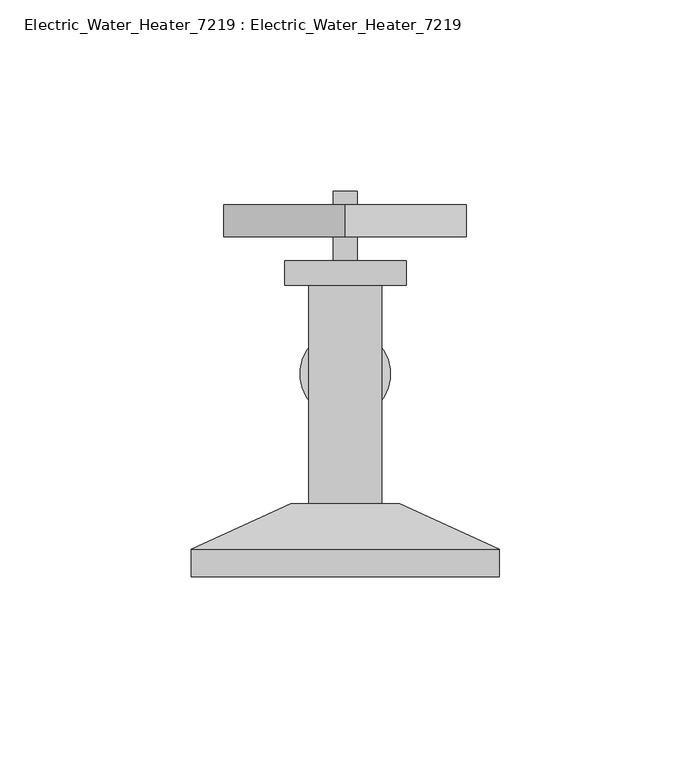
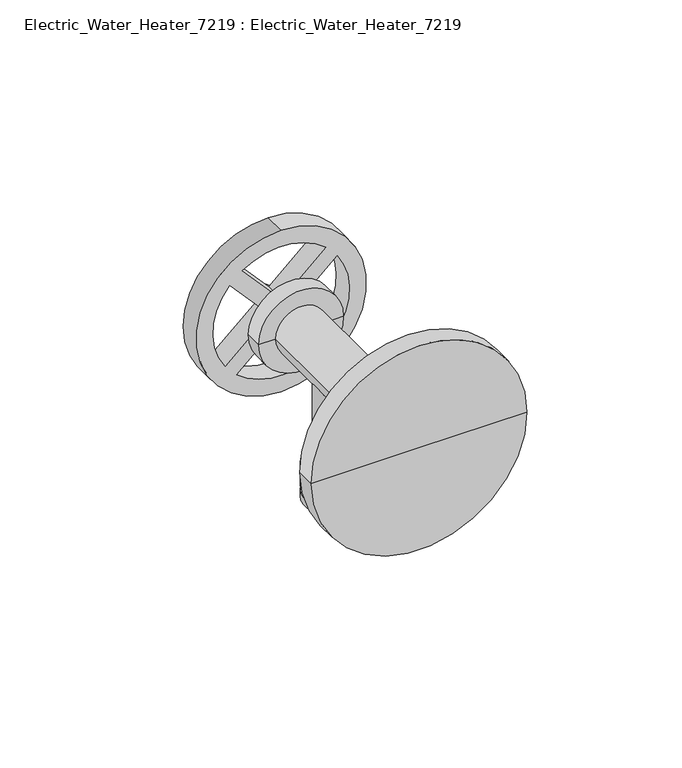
"""IFC4 building model written with IfcOpenShell, lengths in millimetres: flow terminal geometry, Electric_Water_Heater_7219 : Electric_Water_Heater_7219."""

from ifc_helpers import new_model, si_unit, point, frame, frame_2d, origin, place, context, project, spatial, polyline, circle_curve, trimmed, segment, composite_curve, outline, extrude, source, transform, mapped, element, save
from ifc_brep_helpers import plane_surface, cylinder_surface, revolved_surface, advanced_brep


def electric_water_heater_7219_electric_water_heater_7219_a7f30f03(model_context):
    return source(origin(), model_context, "Body", "SolidModel", [
        advanced_brep(
        [(-0.4418278, 129.2029614, 76.4618072), (-0.4418278, 137.1404614, 76.4618072), (-0.4418278, 121.2654614, 76.4618072), (-0.4418278, 117.3734471, 25.4), (-0.4418278, 141.0324757, 25.4), (-0.4418278, 129.2029614, 25.4), (-0.4418278, 117.3734471, 27.9220932), (-0.4418278, 141.0324757, 27.9220932), (-0.4418278, 119.5266224, 28.3017561), (-0.4418278, 138.8793003, 28.3017561), (-0.4418278, 119.5266224, 29.5318914), (-0.4418278, 138.8793003, 29.5318914), (-0.4418278, 117.3734471, 29.9115543), (-0.4418278, 141.0324757, 29.9115543), (-0.4418278, 117.3734471, 31.4414047), (-0.4418278, 141.0324757, 31.4414047), (-0.4418278, 119.5266224, 31.8210676), (-0.4418278, 138.8793003, 31.8210676), (-0.4418278, 119.5266224, 33.0512029), (-0.4418278, 138.8793003, 33.0512029), (-0.4418278, 117.3734471, 33.4308658), (-0.4418278, 141.0324757, 33.4308658), (-0.4418278, 117.3734471, 34.9607162), (-0.4418278, 141.0324757, 34.9607162), (-0.4418278, 119.5266224, 35.3403791), (-0.4418278, 138.8793003, 35.3403791), (-0.4418278, 119.5266224, 36.5705144), (-0.4418278, 138.8793003, 36.5705144), (-0.4418278, 117.3734471, 36.9501773), (-0.4418278, 141.0324757, 36.9501773), (-0.4418278, 117.3734471, 38.4800277), (-0.4418278, 141.0324757, 38.4800277), (-0.4418278, 121.2654614, 38.4800277), (-0.4418278, 137.1404614, 38.4800277)],
        [
            (0, 1),
            (1, 2, circle_curve(frame((-0.4418278, 129.2029614, 76.4618072), z_axis=(0.0, 0.0, 1.0), x_axis=(0.0, 1.0, 0.0)), 7.9375)),
            (2, 0),
            (2, 1, circle_curve(frame((-0.4418278, 129.2029614, 76.4618072), z_axis=(0.0, 0.0, 1.0), x_axis=(0.0, 1.0, 0.0)), 7.9375)),
            (3, 4, circle_curve(frame((-0.4418278, 129.2029614, 25.4), z_axis=(0.0, 0.0, -1.0), x_axis=(0.0, 1.0, 0.0)), 11.8295143)),
            (4, 5),
            (5, 3),
            (4, 3, circle_curve(frame((-0.4418278, 129.2029614, 25.4), z_axis=(0.0, 0.0, -1.0), x_axis=(0.0, 1.0, 0.0)), 11.8295143)),
            (6, 7, circle_curve(frame((-0.4418278, 129.2029614, 27.9220932), z_axis=(0.0, 0.0, -1.0), x_axis=(0.0, 1.0, 0.0)), 11.8295143)),
            (7, 4),
            (3, 6),
            (7, 6, circle_curve(frame((-0.4418278, 129.2029614, 27.9220932), z_axis=(0.0, 0.0, -1.0), x_axis=(0.0, 1.0, 0.0)), 11.8295143)),
            (8, 9, circle_curve(frame((-0.4418278, 129.2029614, 28.3017561), z_axis=(0.0, 0.0, -1.0), x_axis=(0.0, 1.0, 0.0)), 9.676339)),
            (9, 7),
            (6, 8),
            (9, 8, circle_curve(frame((-0.4418278, 129.2029614, 28.3017561), z_axis=(0.0, 0.0, -1.0), x_axis=(0.0, 1.0, 0.0)), 9.676339)),
            (10, 11, circle_curve(frame((-0.4418278, 129.2029614, 29.5318914), z_axis=(0.0, 0.0, -1.0), x_axis=(0.0, 1.0, 0.0)), 9.676339)),
            (11, 9),
            (8, 10),
            (11, 10, circle_curve(frame((-0.4418278, 129.2029614, 29.5318914), z_axis=(0.0, 0.0, -1.0), x_axis=(0.0, 1.0, 0.0)), 9.676339)),
            (12, 13, circle_curve(frame((-0.4418278, 129.2029614, 29.9115543), z_axis=(0.0, 0.0, -1.0), x_axis=(0.0, 1.0, 0.0)), 11.8295143)),
            (13, 11),
            (10, 12),
            (13, 12, circle_curve(frame((-0.4418278, 129.2029614, 29.9115543), z_axis=(0.0, 0.0, -1.0), x_axis=(0.0, 1.0, 0.0)), 11.8295143)),
            (14, 15, circle_curve(frame((-0.4418278, 129.2029614, 31.4414047), z_axis=(0.0, 0.0, -1.0), x_axis=(0.0, 1.0, 0.0)), 11.8295143)),
            (15, 13),
            (12, 14),
            (15, 14, circle_curve(frame((-0.4418278, 129.2029614, 31.4414047), z_axis=(0.0, 0.0, -1.0), x_axis=(0.0, 1.0, 0.0)), 11.8295143)),
            (16, 17, circle_curve(frame((-0.4418278, 129.2029614, 31.8210676), z_axis=(0.0, 0.0, -1.0), x_axis=(0.0, 1.0, 0.0)), 9.676339)),
            (17, 15),
            (14, 16),
            (17, 16, circle_curve(frame((-0.4418278, 129.2029614, 31.8210676), z_axis=(0.0, 0.0, -1.0), x_axis=(0.0, 1.0, 0.0)), 9.676339)),
            (18, 19, circle_curve(frame((-0.4418278, 129.2029614, 33.0512029), z_axis=(0.0, 0.0, -1.0), x_axis=(0.0, 1.0, 0.0)), 9.676339)),
            (19, 17),
            (16, 18),
            (19, 18, circle_curve(frame((-0.4418278, 129.2029614, 33.0512029), z_axis=(0.0, 0.0, -1.0), x_axis=(0.0, 1.0, 0.0)), 9.676339)),
            (20, 21, circle_curve(frame((-0.4418278, 129.2029614, 33.4308658), z_axis=(0.0, 0.0, -1.0), x_axis=(0.0, 1.0, 0.0)), 11.8295143)),
            (21, 19),
            (18, 20),
            (21, 20, circle_curve(frame((-0.4418278, 129.2029614, 33.4308658), z_axis=(0.0, 0.0, -1.0), x_axis=(0.0, 1.0, 0.0)), 11.8295143)),
            (22, 23, circle_curve(frame((-0.4418278, 129.2029614, 34.9607162), z_axis=(0.0, 0.0, -1.0), x_axis=(0.0, 1.0, 0.0)), 11.8295143)),
            (23, 21),
            (20, 22),
            (23, 22, circle_curve(frame((-0.4418278, 129.2029614, 34.9607162), z_axis=(0.0, 0.0, -1.0), x_axis=(0.0, 1.0, 0.0)), 11.8295143)),
            (24, 25, circle_curve(frame((-0.4418278, 129.2029614, 35.3403791), z_axis=(0.0, 0.0, -1.0), x_axis=(0.0, 1.0, 0.0)), 9.676339)),
            (25, 23),
            (22, 24),
            (25, 24, circle_curve(frame((-0.4418278, 129.2029614, 35.3403791), z_axis=(0.0, 0.0, -1.0), x_axis=(0.0, 1.0, 0.0)), 9.676339)),
            (26, 27, circle_curve(frame((-0.4418278, 129.2029614, 36.5705144), z_axis=(0.0, 0.0, -1.0), x_axis=(0.0, 1.0, 0.0)), 9.676339)),
            (27, 25),
            (24, 26),
            (27, 26, circle_curve(frame((-0.4418278, 129.2029614, 36.5705144), z_axis=(0.0, 0.0, -1.0), x_axis=(0.0, 1.0, 0.0)), 9.676339)),
            (28, 29, circle_curve(frame((-0.4418278, 129.2029614, 36.9501773), z_axis=(0.0, 0.0, -1.0), x_axis=(0.0, 1.0, 0.0)), 11.8295143)),
            (29, 27),
            (26, 28),
            (29, 28, circle_curve(frame((-0.4418278, 129.2029614, 36.9501773), z_axis=(0.0, 0.0, -1.0), x_axis=(0.0, 1.0, 0.0)), 11.8295143)),
            (30, 31, circle_curve(frame((-0.4418278, 129.2029614, 38.4800277), z_axis=(0.0, 0.0, -1.0), x_axis=(0.0, 1.0, 0.0)), 11.8295143)),
            (31, 29),
            (28, 30),
            (31, 30, circle_curve(frame((-0.4418278, 129.2029614, 38.4800277), z_axis=(0.0, 0.0, -1.0), x_axis=(0.0, 1.0, 0.0)), 11.8295143)),
            (32, 33, circle_curve(frame((-0.4418278, 129.2029614, 38.4800277), z_axis=(0.0, 0.0, -1.0), x_axis=(0.0, 1.0, 0.0)), 7.9375)),
            (33, 31),
            (30, 32),
            (33, 32, circle_curve(frame((-0.4418278, 129.2029614, 38.4800277), z_axis=(0.0, 0.0, -1.0), x_axis=(0.0, 1.0, 0.0)), 7.9375)),
            (1, 33),
            (32, 2),
        ],
        [
            plane_surface(frame((-0.4418278, 129.2029614, 76.4618072), z_axis=(0.0, 0.0, 1.0), x_axis=(0.0, 1.0, 0.0))),
            plane_surface(frame((-0.4418278, 129.2029614, 25.4), z_axis=(0.0, 0.0, -1.0), x_axis=(0.0, 1.0, 0.0))),
            cylinder_surface(frame((-0.4418278, 129.2029614, -63.3835202), z_axis=(0.0, 0.0, 1.0), x_axis=(0.0, 1.0, 0.0)), 11.8295143),
            revolved_surface(polyline([(-0.4418278, 141.0324757, 27.9220932), (-0.4418278, 138.8793003, 28.3017561)]), (-0.4418278, 129.2029614, -63.3835202), (0.0, 0.0, 1.0)),
            cylinder_surface(frame((-0.4418278, 129.2029614, -63.3835202), z_axis=(0.0, 0.0, 1.0), x_axis=(0.0, 1.0, 0.0)), 9.676339),
            revolved_surface(polyline([(-0.4418278, 138.8793003, 29.5318914), (-0.4418278, 141.0324757, 29.9115543)]), (-0.4418278, 129.2029614, -63.3835202), (0.0, 0.0, 1.0)),
            revolved_surface(polyline([(-0.4418278, 141.0324757, 31.4414047), (-0.4418278, 138.8793003, 31.8210676)]), (-0.4418278, 129.2029614, -63.3835202), (0.0, 0.0, 1.0)),
            revolved_surface(polyline([(-0.4418278, 138.8793003, 33.0512029), (-0.4418278, 141.0324757, 33.4308658)]), (-0.4418278, 129.2029614, -63.3835202), (0.0, 0.0, 1.0)),
            revolved_surface(polyline([(-0.4418278, 141.0324757, 34.9607162), (-0.4418278, 138.8793003, 35.3403791)]), (-0.4418278, 129.2029614, -63.3835202), (0.0, 0.0, 1.0)),
            revolved_surface(polyline([(-0.4418278, 138.8793003, 36.5705144), (-0.4418278, 141.0324757, 36.9501773)]), (-0.4418278, 129.2029614, -63.3835202), (0.0, 0.0, 1.0)),
            plane_surface(frame((-0.4418278, 129.2029614, 38.4800277), z_axis=(0.0, 0.0, 1.0), x_axis=(0.0, 1.0, 0.0))),
            cylinder_surface(frame((-0.4418278, 129.2029614, -63.3835202), z_axis=(0.0, 0.0, 1.0), x_axis=(0.0, 1.0, 0.0)), 7.9375),
        ],
        [
            (0, [[1, 2, 3]]),
            (0, [[-3, 4, -1]]),
            (1, [[5, 6, 7]]),
            (1, [[8, -7, -6]]),
            (2, [[9, 10, -5, 11]]),
            (2, [[12, -11, -8, -10]]),
            (3, [[13, 14, -9, 15]]),
            (3, [[16, -15, -12, -14]]),
            (4, [[17, 18, -13, 19]]),
            (4, [[20, -19, -16, -18]]),
            (5, [[21, 22, -17, 23]]),
            (5, [[24, -23, -20, -22]]),
            (2, [[25, 26, -21, 27]]),
            (2, [[28, -27, -24, -26]]),
            (6, [[29, 30, -25, 31]]),
            (6, [[32, -31, -28, -30]]),
            (4, [[33, 34, -29, 35]]),
            (4, [[36, -35, -32, -34]]),
            (7, [[37, 38, -33, 39]]),
            (7, [[40, -39, -36, -38]]),
            (2, [[41, 42, -37, 43]]),
            (2, [[44, -43, -40, -42]]),
            (8, [[45, 46, -41, 47]]),
            (8, [[48, -47, -44, -46]]),
            (4, [[49, 50, -45, 51]]),
            (4, [[52, -51, -48, -50]]),
            (9, [[53, 54, -49, 55]]),
            (9, [[56, -55, -52, -54]]),
            (2, [[57, 58, -53, 59]]),
            (2, [[60, -59, -56, -58]]),
            (10, [[61, 62, -57, 63]]),
            (10, [[64, -63, -60, -62]]),
            (11, [[-2, 65, -61, 66]]),
            (11, [[-4, -66, -64, -65]]),
        ],
    ),
        extrude(outline(composite_curve([segment(trimmed(circle_curve(frame_2d((76.4618072, -0.4418278)), 31.75), [point((108.2118072, -0.4418278))], [point((44.7118072, -0.4418278))], False, "CARTESIAN"), True, "CONTINUOUS"), segment(trimmed(circle_curve(frame_2d((76.4618072, -0.4418278)), 31.75), [point((44.7118072, -0.4418278))], [point((108.2118072, -0.4418278))], False, "CARTESIAN"), True, "CONTINUOUS")], self_intersect=False), holes=[composite_curve([segment(polyline([(95.683906, 16.1615127), (80.9457816, -0.2068326), (97.314127, -14.944957)]), True, "CONTINUOUS"), segment(trimmed(circle_curve(frame_2d((76.4618072, -0.4418278)), 25.4), [point((97.314127, -14.944957))], [point((99.7038021, -10.6872985))], True, "CARTESIAN"), True, "CONTINUOUS"), segment(trimmed(circle_curve(frame_2d((76.4618072, -0.4418278)), 25.4), [point((99.7038021, -10.6872985))], [point((95.683906, 16.1615127))], True, "CARTESIAN"), True, "CONTINUOUS")], self_intersect=False), composite_curve([segment(polyline([(76.6968023, -4.9258023), (61.9586779, -21.2941476)]), True, "CONTINUOUS"), segment(trimmed(circle_curve(frame_2d((76.4618072, -0.4418278)), 25.4), [point((61.9586779, -21.2941476))], [point((93.0651477, -19.6639266))], True, "CARTESIAN"), True, "CONTINUOUS"), segment(polyline([(93.0651477, -19.6639266), (76.6968023, -4.9258023)]), True, "CONTINUOUS")], self_intersect=False), composite_curve([segment(polyline([(76.226812, 4.0421467), (90.9649364, 20.4104921)]), True, "CONTINUOUS"), segment(trimmed(circle_curve(frame_2d((76.4618072, -0.4418278)), 25.4), [point((90.9649364, 20.4104921))], [point((59.8584667, 18.7802711))], True, "CARTESIAN"), True, "CONTINUOUS"), segment(polyline([(59.8584667, 18.7802711), (76.226812, 4.0421467)]), True, "CONTINUOUS")], self_intersect=False), composite_curve([segment(polyline([(71.9778327, -0.6768229), (55.6094873, 14.0613014)]), True, "CONTINUOUS"), segment(trimmed(circle_curve(frame_2d((76.4618072, -0.4418278)), 25.4), [point((55.6094873, 14.0613014))], [point((57.2397083, -17.0451683))], True, "CARTESIAN"), True, "CONTINUOUS"), segment(polyline([(57.2397083, -17.0451683), (71.9778327, -0.6768229)]), True, "CONTINUOUS")], self_intersect=False)]), frame((0.0, 165.1, 0.0), z_axis=(0.0, 1.0, 0.0), x_axis=(0.0, 0.0, 1.0)), (0.0, 0.0, 1.0), 8.3747193),
        advanced_brep(
        [(2.7331722, 176.9372525, 76.4618072), (-3.6168278, 176.9372525, 76.4618072), (-0.4418278, 176.9372525, 76.4618072), (2.7331722, 158.75, 76.4618072), (-3.6168278, 158.75, 76.4618072), (15.4331722, 158.75, 76.4618072), (-16.3168278, 158.75, 76.4618072), (15.4331722, 152.4, 76.4618072), (-16.3168278, 152.4, 76.4618072), (9.0831722, 152.4, 76.4618072), (-9.9668278, 152.4, 76.4618072), (9.0831722, 95.25, 76.4618072), (-9.9668278, 95.25, 76.4618072), (13.8456722, 95.25, 76.4618072), (-14.7293278, 95.25, 76.4618072), (39.8188421, 83.383286, 76.4618072), (-40.7024977, 83.383286, 76.4618072), (39.8188421, 76.2, 76.4618072), (-40.7024977, 76.2, 76.4618072), (-0.4418278, 76.2, 76.4618072)],
        [
            (0, 1, circle_curve(frame((-0.4418278, 176.9372525, 76.4618072), z_axis=(0.0, 1.0, 0.0), x_axis=(-1.0, 0.0, 0.0)), 3.175)),
            (1, 2),
            (2, 0),
            (1, 0, circle_curve(frame((-0.4418278, 176.9372525, 76.4618072), z_axis=(0.0, 1.0, 0.0), x_axis=(-1.0, 0.0, 0.0)), 3.175)),
            (3, 4, circle_curve(frame((-0.4418278, 158.75, 76.4618072), z_axis=(0.0, 1.0, 0.0), x_axis=(-1.0, 0.0, 0.0)), 3.175)),
            (4, 1),
            (0, 3),
            (4, 3, circle_curve(frame((-0.4418278, 158.75, 76.4618072), z_axis=(0.0, 1.0, 0.0), x_axis=(-1.0, 0.0, 0.0)), 3.175)),
            (5, 6, circle_curve(frame((-0.4418278, 158.75, 76.4618072), z_axis=(0.0, 1.0, 0.0), x_axis=(-1.0, 0.0, 0.0)), 15.875)),
            (6, 4),
            (3, 5),
            (6, 5, circle_curve(frame((-0.4418278, 158.75, 76.4618072), z_axis=(0.0, 1.0, 0.0), x_axis=(-1.0, 0.0, 0.0)), 15.875)),
            (7, 8, circle_curve(frame((-0.4418278, 152.4, 76.4618072), z_axis=(0.0, 1.0, 0.0), x_axis=(-1.0, 0.0, 0.0)), 15.875)),
            (8, 6),
            (5, 7),
            (8, 7, circle_curve(frame((-0.4418278, 152.4, 76.4618072), z_axis=(0.0, 1.0, 0.0), x_axis=(-1.0, 0.0, 0.0)), 15.875)),
            (9, 10, circle_curve(frame((-0.4418278, 152.4, 76.4618072), z_axis=(0.0, 1.0, 0.0), x_axis=(-1.0, 0.0, 0.0)), 9.525)),
            (10, 8),
            (7, 9),
            (10, 9, circle_curve(frame((-0.4418278, 152.4, 76.4618072), z_axis=(0.0, 1.0, 0.0), x_axis=(-1.0, 0.0, 0.0)), 9.525)),
            (11, 12, circle_curve(frame((-0.4418278, 95.25, 76.4618072), z_axis=(0.0, 1.0, 0.0), x_axis=(-1.0, 0.0, 0.0)), 9.525)),
            (12, 10),
            (9, 11),
            (12, 11, circle_curve(frame((-0.4418278, 95.25, 76.4618072), z_axis=(0.0, 1.0, 0.0), x_axis=(-1.0, 0.0, 0.0)), 9.525)),
            (13, 14, circle_curve(frame((-0.4418278, 95.25, 76.4618072), z_axis=(0.0, 1.0, 0.0), x_axis=(-1.0, 0.0, 0.0)), 14.2875)),
            (14, 12),
            (11, 13),
            (14, 13, circle_curve(frame((-0.4418278, 95.25, 76.4618072), z_axis=(0.0, 1.0, 0.0), x_axis=(-1.0, 0.0, 0.0)), 14.2875)),
            (15, 16, circle_curve(frame((-0.4418278, 83.383286, 76.4618072), z_axis=(0.0, 1.0, 0.0), x_axis=(-1.0, 0.0, 0.0)), 40.2606699)),
            (16, 14),
            (13, 15),
            (16, 15, circle_curve(frame((-0.4418278, 83.383286, 76.4618072), z_axis=(0.0, 1.0, 0.0), x_axis=(-1.0, 0.0, 0.0)), 40.2606699)),
            (17, 18, circle_curve(frame((-0.4418278, 76.2, 76.4618072), z_axis=(0.0, 1.0, 0.0), x_axis=(-1.0, 0.0, 0.0)), 40.2606699)),
            (18, 16),
            (15, 17),
            (18, 17, circle_curve(frame((-0.4418278, 76.2, 76.4618072), z_axis=(0.0, 1.0, 0.0), x_axis=(-1.0, 0.0, 0.0)), 40.2606699)),
            (19, 18),
            (17, 19),
        ],
        [
            plane_surface(frame((-0.4418278, 176.9372525, 76.4618072), z_axis=(0.0, 1.0, 0.0), x_axis=(-1.0, 0.0, 0.0))),
            cylinder_surface(frame((-0.4418278, 811.8047733, 76.4618072), z_axis=(0.0, -1.0, 0.0), x_axis=(-1.0, 0.0, 0.0)), 3.175),
            plane_surface(frame((-0.4418278, 158.75, 76.4618072), z_axis=(0.0, 1.0, 0.0), x_axis=(-1.0, 0.0, 0.0))),
            cylinder_surface(frame((-0.4418278, 811.8047733, 76.4618072), z_axis=(0.0, -1.0, 0.0), x_axis=(-1.0, 0.0, 0.0)), 15.875),
            plane_surface(frame((-0.4418278, 152.4, 76.4618072), z_axis=(0.0, -1.0, 0.0), x_axis=(-1.0, 0.0, 0.0))),
            cylinder_surface(frame((-0.4418278, 811.8047733, 76.4618072), z_axis=(0.0, -1.0, 0.0), x_axis=(-1.0, 0.0, 0.0)), 9.525),
            plane_surface(frame((-0.4418278, 95.25, 76.4618072), z_axis=(0.0, 1.0, 0.0), x_axis=(-1.0, 0.0, 0.0))),
            revolved_surface(polyline([(-14.7293278, 95.25, 76.4618072), (-40.7024977, 83.383286, 76.4618072)]), (-0.4418278, 811.8047733, 76.4618072), (0.0, -1.0, 0.0)),
            cylinder_surface(frame((-0.4418278, 811.8047733, 76.4618072), z_axis=(0.0, -1.0, 0.0), x_axis=(-1.0, 0.0, 0.0)), 40.2606699),
            plane_surface(frame((-0.4418278, 76.2, 76.4618072), z_axis=(0.0, -1.0, 0.0), x_axis=(-1.0, 0.0, 0.0))),
        ],
        [
            (0, [[1, 2, 3]]),
            (0, [[4, -3, -2]]),
            (1, [[5, 6, -1, 7]]),
            (1, [[8, -7, -4, -6]]),
            (2, [[9, 10, -5, 11]]),
            (2, [[12, -11, -8, -10]]),
            (3, [[13, 14, -9, 15]]),
            (3, [[16, -15, -12, -14]]),
            (4, [[17, 18, -13, 19]]),
            (4, [[20, -19, -16, -18]]),
            (5, [[21, 22, -17, 23]]),
            (5, [[24, -23, -20, -22]]),
            (6, [[25, 26, -21, 27]]),
            (6, [[28, -27, -24, -26]]),
            (7, [[29, 30, -25, 31]]),
            (7, [[32, -31, -28, -30]]),
            (8, [[33, 34, -29, 35]]),
            (8, [[36, -35, -32, -34]]),
            (9, [[37, -33, 38]]),
            (9, [[-38, -36, -37]]),
        ],
    ),
    ])


if __name__ == "__main__":
    model = new_model("IFC4")
    model_context = context("Model", 3, world=origin())
    ifc_project = project(units=[si_unit("LENGTHUNIT", "METRE", prefix="MILLI")], contexts=[model_context])
    site = spatial("IfcSite", under=ifc_project)
    building = spatial("IfcBuilding", under=site)
    placement = place(None, origin())
    electric_water_heater_7219_electric_water_heater_7219_shape = electric_water_heater_7219_electric_water_heater_7219_a7f30f03(model_context)
    element("IfcFlowTerminal", 1, ObjectType="Electric_Water_Heater_7219 : Electric_Water_Heater_7219", at=placement, inside=building, context=model_context, shape_type="MappedRepresentation", body=[
        mapped(electric_water_heater_7219_electric_water_heater_7219_shape, transform((0.0, 0.0, 0.0), x_axis=(1.0, 0.0, 0.0), y_axis=(0.0, 1.0, 0.0), z_axis=(0.0, 0.0, 1.0))),
    ])
    save(model, "model.ifc")
